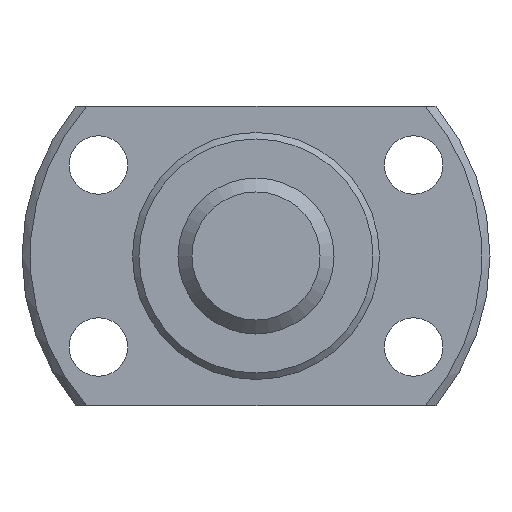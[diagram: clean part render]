
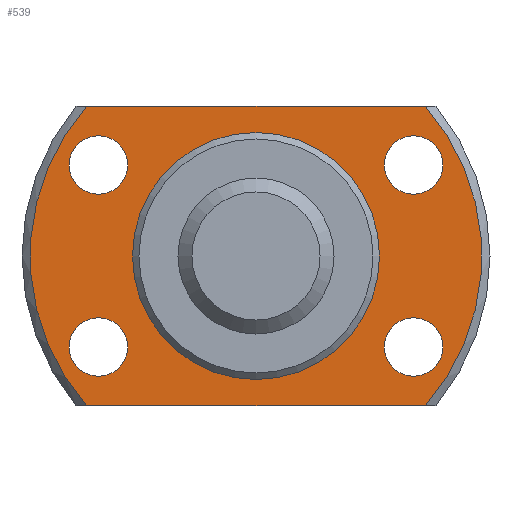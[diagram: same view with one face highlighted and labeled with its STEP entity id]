
A CAD part, left-side view. The second image highlights one B-rep face of the part: STEP entity #539.
In plain terms, the highlighted planar face has unit normal (-1, 0, 0) as drawn and (1, 0, 0) by its records, which use the part's own axes.
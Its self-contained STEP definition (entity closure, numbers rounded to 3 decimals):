
#73=CIRCLE('',#608,17.375);
#88=CIRCLE('',#632,9.3);
#89=CIRCLE('',#634,17.375);
#90=CIRCLE('',#635,2.25);
#91=CIRCLE('',#636,2.25);
#92=CIRCLE('',#637,2.25);
#93=CIRCLE('',#638,2.25);
#176=ORIENTED_EDGE('',*,*,#270,.T.);
#177=ORIENTED_EDGE('',*,*,#248,.T.);
#178=ORIENTED_EDGE('',*,*,#271,.T.);
#179=ORIENTED_EDGE('',*,*,#272,.T.);
#180=ORIENTED_EDGE('',*,*,#273,.F.);
#181=ORIENTED_EDGE('',*,*,#274,.F.);
#182=ORIENTED_EDGE('',*,*,#275,.F.);
#183=ORIENTED_EDGE('',*,*,#276,.F.);
#184=ORIENTED_EDGE('',*,*,#269,.F.);
#248=EDGE_CURVE('',#303,#305,#73,.T.);
#269=EDGE_CURVE('',#324,#324,#88,.T.);
#270=EDGE_CURVE('',#325,#303,#347,.T.);
#271=EDGE_CURVE('',#305,#326,#348,.T.);
#272=EDGE_CURVE('',#326,#325,#89,.T.);
#273=EDGE_CURVE('',#327,#327,#90,.T.);
#274=EDGE_CURVE('',#328,#328,#91,.T.);
#275=EDGE_CURVE('',#329,#329,#92,.T.);
#276=EDGE_CURVE('',#330,#330,#93,.T.);
#303=VERTEX_POINT('',#886);
#305=VERTEX_POINT('',#893);
#324=VERTEX_POINT('',#949);
#325=VERTEX_POINT('',#952);
#326=VERTEX_POINT('',#954);
#327=VERTEX_POINT('',#957);
#328=VERTEX_POINT('',#959);
#329=VERTEX_POINT('',#961);
#330=VERTEX_POINT('',#963);
#347=LINE('',#951,#365);
#348=LINE('',#953,#366);
#365=VECTOR('',#784,1000.);
#366=VECTOR('',#785,1000.);
#414=EDGE_LOOP('',(#176,#177,#178,#179));
#415=EDGE_LOOP('',(#180));
#416=EDGE_LOOP('',(#181));
#417=EDGE_LOOP('',(#182));
#418=EDGE_LOOP('',(#183));
#419=EDGE_LOOP('',(#184));
#478=FACE_BOUND('',#414,.T.);
#479=FACE_BOUND('',#415,.T.);
#480=FACE_BOUND('',#416,.T.);
#481=FACE_BOUND('',#417,.T.);
#482=FACE_BOUND('',#418,.T.);
#483=FACE_BOUND('',#419,.T.);
#510=PLANE('',#633);
#539=ADVANCED_FACE('',(#478,#479,#480,#481,#482,#483),#510,.T.);
#608=AXIS2_PLACEMENT_3D('',#894,#728,#729);
#632=AXIS2_PLACEMENT_3D('',#948,#780,#781);
#633=AXIS2_PLACEMENT_3D('',#950,#782,#783);
#634=AXIS2_PLACEMENT_3D('',#955,#786,#787);
#635=AXIS2_PLACEMENT_3D('',#956,#788,#789);
#636=AXIS2_PLACEMENT_3D('',#958,#790,#791);
#637=AXIS2_PLACEMENT_3D('',#960,#792,#793);
#638=AXIS2_PLACEMENT_3D('',#962,#794,#795);
#728=DIRECTION('',(1.,0.,0.));
#729=DIRECTION('',(0.,0.,-1.));
#780=DIRECTION('',(1.,0.,0.));
#781=DIRECTION('',(0.,0.,-1.));
#782=DIRECTION('',(1.,0.,0.));
#783=DIRECTION('',(0.,0.,-1.));
#784=DIRECTION('',(0.,-1.,0.));
#785=DIRECTION('',(0.,1.,0.));
#786=DIRECTION('',(1.,0.,0.));
#787=DIRECTION('',(0.,0.,-1.));
#788=DIRECTION('',(1.,0.,0.));
#789=DIRECTION('',(0.,0.,-1.));
#790=DIRECTION('',(1.,0.,0.));
#791=DIRECTION('',(0.,0.,-1.));
#792=DIRECTION('',(1.,0.,0.));
#793=DIRECTION('',(0.,0.,-1.));
#794=DIRECTION('',(1.,0.,0.));
#795=DIRECTION('',(0.,0.,-1.));
#886=CARTESIAN_POINT('',(5.,-13.025,11.5));
#893=CARTESIAN_POINT('',(5.,-13.025,-11.5));
#894=CARTESIAN_POINT('',(5.,0.,0.));
#948=CARTESIAN_POINT('',(5.,0.,0.));
#949=CARTESIAN_POINT('',(5.,0.,-9.3));
#950=CARTESIAN_POINT('',(5.,9.3,0.));
#951=CARTESIAN_POINT('',(5.,18.,11.5));
#952=CARTESIAN_POINT('',(5.,13.025,11.5));
#953=CARTESIAN_POINT('',(5.,-18.,-11.5));
#954=CARTESIAN_POINT('',(5.,13.025,-11.5));
#955=CARTESIAN_POINT('',(5.,0.,0.));
#956=CARTESIAN_POINT('',(5.,12.124,7.));
#957=CARTESIAN_POINT('',(5.,12.124,4.75));
#958=CARTESIAN_POINT('',(5.,-12.124,7.));
#959=CARTESIAN_POINT('',(5.,-12.124,4.75));
#960=CARTESIAN_POINT('',(5.,-12.124,-7.));
#961=CARTESIAN_POINT('',(5.,-12.124,-9.25));
#962=CARTESIAN_POINT('',(5.,12.124,-7.));
#963=CARTESIAN_POINT('',(5.,12.124,-9.25));
